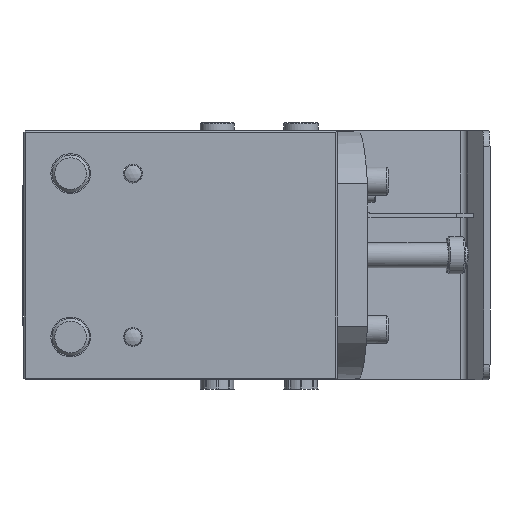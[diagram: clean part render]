
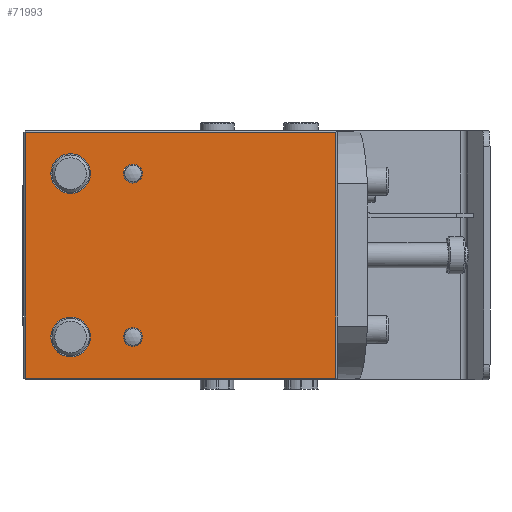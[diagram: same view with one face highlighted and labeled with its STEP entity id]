
A CAD part, front view. The second image highlights one B-rep face of the part: STEP entity #71993.
In plain terms, the highlighted planar face has unit normal (0, -1, 0).
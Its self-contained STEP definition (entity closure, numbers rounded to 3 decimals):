
#7478=LINE('',#124693,#13468);
#7480=LINE('',#124696,#13470);
#7482=LINE('',#124700,#13472);
#7483=LINE('',#124702,#13473);
#13468=VECTOR('',#86397,158.);
#13470=VECTOR('',#86401,199.5);
#13472=VECTOR('',#86407,199.5);
#13473=VECTOR('',#86410,158.);
#18448=PLANE('',#74904);
#19081=FACE_BOUND('',#27490,.T.);
#19082=FACE_BOUND('',#27491,.T.);
#19083=FACE_BOUND('',#27492,.T.);
#19084=FACE_BOUND('',#27493,.T.);
#23125=FACE_OUTER_BOUND('',#27489,.T.);
#27489=EDGE_LOOP('',(#63665,#63666,#63667,#63668));
#27490=EDGE_LOOP('',(#63669));
#27491=EDGE_LOOP('',(#63670));
#27492=EDGE_LOOP('',(#63671));
#27493=EDGE_LOOP('',(#63672));
#28391=CIRCLE('',#74790,6.05);
#28392=CIRCLE('',#74792,6.05);
#28397=CIRCLE('',#74848,12.75);
#28399=CIRCLE('',#74854,12.75);
#34706=VERTEX_POINT('',#123677);
#34707=VERTEX_POINT('',#123680);
#34852=VERTEX_POINT('',#124421);
#34859=VERTEX_POINT('',#124502);
#34871=VERTEX_POINT('',#124628);
#34879=VERTEX_POINT('',#124672);
#34880=VERTEX_POINT('',#124679);
#34882=VERTEX_POINT('',#124685);
#44280=EDGE_CURVE('',#34706,#34706,#28391,.T.);
#44281=EDGE_CURVE('',#34707,#34707,#28392,.T.);
#44490=EDGE_CURVE('',#34852,#34852,#28397,.T.);
#44497=EDGE_CURVE('',#34859,#34859,#28399,.T.);
#44551=EDGE_CURVE('',#34880,#34882,#7478,.T.);
#44553=EDGE_CURVE('',#34882,#34879,#7480,.T.);
#44555=EDGE_CURVE('',#34871,#34880,#7482,.T.);
#44556=EDGE_CURVE('',#34879,#34871,#7483,.T.);
#63665=ORIENTED_EDGE('',*,*,#44551,.F.);
#63666=ORIENTED_EDGE('',*,*,#44555,.F.);
#63667=ORIENTED_EDGE('',*,*,#44556,.F.);
#63668=ORIENTED_EDGE('',*,*,#44553,.F.);
#63669=ORIENTED_EDGE('',*,*,#44280,.T.);
#63670=ORIENTED_EDGE('',*,*,#44281,.T.);
#63671=ORIENTED_EDGE('',*,*,#44490,.T.);
#63672=ORIENTED_EDGE('',*,*,#44497,.T.);
#71993=ADVANCED_FACE('',(#23125,#19081,#19082,#19083,#19084),#18448,.T.);
#74790=AXIS2_PLACEMENT_3D('',#123678,#86010,#86011);
#74792=AXIS2_PLACEMENT_3D('',#123681,#86014,#86015);
#74848=AXIS2_PLACEMENT_3D('',#124422,#86282,#86283);
#74854=AXIS2_PLACEMENT_3D('',#124503,#86294,#86295);
#74904=AXIS2_PLACEMENT_3D('',#124723,#86439,#86440);
#86010=DIRECTION('center_axis',(0.,1.,0.));
#86011=DIRECTION('ref_axis',(-1.,0.,0.));
#86014=DIRECTION('center_axis',(0.,1.,0.));
#86015=DIRECTION('ref_axis',(-1.,0.,0.));
#86282=DIRECTION('center_axis',(0.,1.,0.));
#86283=DIRECTION('ref_axis',(-1.,0.,0.));
#86294=DIRECTION('center_axis',(0.,1.,0.));
#86295=DIRECTION('ref_axis',(-1.,0.,0.));
#86397=DIRECTION('',(0.,0.,1.));
#86401=DIRECTION('',(1.,0.,0.));
#86407=DIRECTION('',(-1.,0.,0.));
#86410=DIRECTION('',(0.,0.,-1.));
#86439=DIRECTION('center_axis',(0.,-1.,0.));
#86440=DIRECTION('ref_axis',(0.,0.,-1.));
#123677=CARTESIAN_POINT('',(76.05,-56.95,-52.5));
#123678=CARTESIAN_POINT('Origin',(70.,-56.95,-52.5));
#123680=CARTESIAN_POINT('',(76.05,-56.95,52.5));
#123681=CARTESIAN_POINT('Origin',(70.,-56.95,52.5));
#124421=CARTESIAN_POINT('',(42.75,-56.95,52.5));
#124422=CARTESIAN_POINT('Origin',(30.,-56.95,52.5));
#124502=CARTESIAN_POINT('',(42.75,-56.95,-52.5));
#124503=CARTESIAN_POINT('Origin',(30.,-56.95,-52.5));
#124628=CARTESIAN_POINT('',(200.5,-56.95,-79.));
#124672=CARTESIAN_POINT('',(200.5,-56.95,79.));
#124679=CARTESIAN_POINT('',(1.,-56.95,-79.));
#124685=CARTESIAN_POINT('',(1.,-56.95,79.));
#124693=CARTESIAN_POINT('',(1.,-56.95,0.));
#124696=CARTESIAN_POINT('',(150.743,-56.95,79.));
#124700=CARTESIAN_POINT('',(150.743,-56.95,-79.));
#124702=CARTESIAN_POINT('',(200.5,-56.95,0.));
#124723=CARTESIAN_POINT('Origin',(201.5,-56.95,0.));
